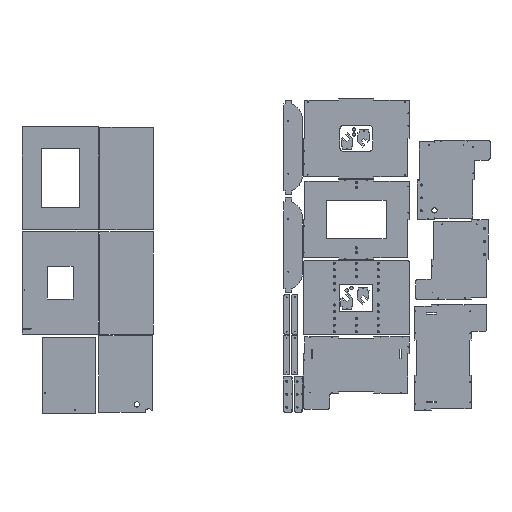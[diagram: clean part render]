
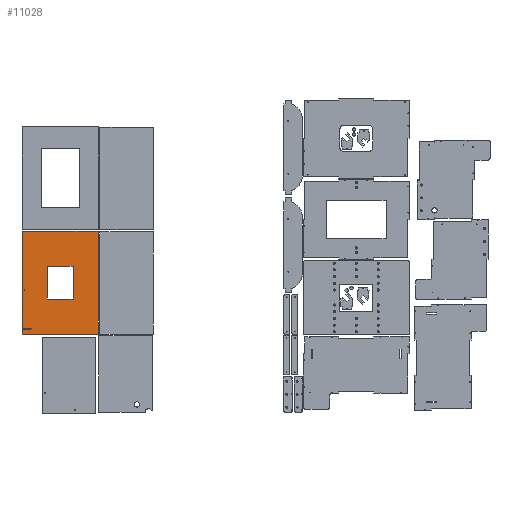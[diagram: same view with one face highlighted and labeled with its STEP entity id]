
A CAD part, top view. The second image highlights one B-rep face of the part: STEP entity #11028.
In plain terms, the highlighted planar face has unit normal (0, 0, 1) as drawn and (0, 1, 0) by its records, which use the part's own axes.
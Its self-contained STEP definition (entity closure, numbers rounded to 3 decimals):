
#127=(
BOUNDED_CURVE()
B_SPLINE_CURVE(2,(#17519,#17520,#17521),.UNSPECIFIED.,.F.,.F.)
B_SPLINE_CURVE_WITH_KNOTS((3,3),(0.,0.208),.UNSPECIFIED.)
CURVE()
GEOMETRIC_REPRESENTATION_ITEM()
RATIONAL_B_SPLINE_CURVE((1.,1.356,1.))
REPRESENTATION_ITEM('')
);
#437=FACE_BOUND('',#1948,.T.);
#438=FACE_BOUND('',#1949,.T.);
#700=PLANE('',#12229);
#1204=FACE_OUTER_BOUND('',#1947,.T.);
#1947=EDGE_LOOP('',(#8985,#8986,#8987,#8988,#8989,#8990,#8991,#8992,#8993,
#8994));
#1948=EDGE_LOOP('',(#8995,#8996,#8997,#8998));
#1949=EDGE_LOOP('',(#8999));
#2832=LINE('',#17525,#3929);
#2833=LINE('',#17528,#3930);
#2834=LINE('',#17531,#3931);
#2835=LINE('',#17533,#3932);
#2836=LINE('',#17535,#3933);
#2837=LINE('',#17537,#3934);
#2838=LINE('',#17541,#3935);
#2839=LINE('',#17542,#3936);
#2840=LINE('',#17545,#3937);
#2841=LINE('',#17547,#3938);
#2842=LINE('',#17549,#3939);
#2843=LINE('',#17550,#3940);
#3929=VECTOR('',#14365,10.);
#3930=VECTOR('',#14368,10.);
#3931=VECTOR('',#14371,10.);
#3932=VECTOR('',#14372,10.);
#3933=VECTOR('',#14373,10.);
#3934=VECTOR('',#14374,10.);
#3935=VECTOR('',#14377,10.);
#3936=VECTOR('',#14378,10.);
#3937=VECTOR('',#14379,10.);
#3938=VECTOR('',#14380,10.);
#3939=VECTOR('',#14381,10.);
#3940=VECTOR('',#14382,10.);
#4795=CIRCLE('',#12230,1.5);
#4796=CIRCLE('',#12231,1.5);
#5450=VERTEX_POINT('',#17517);
#5451=VERTEX_POINT('',#17518);
#5452=VERTEX_POINT('',#17524);
#5453=VERTEX_POINT('',#17526);
#5454=VERTEX_POINT('',#17530);
#5455=VERTEX_POINT('',#17532);
#5456=VERTEX_POINT('',#17534);
#5457=VERTEX_POINT('',#17536);
#5458=VERTEX_POINT('',#17538);
#5459=VERTEX_POINT('',#17540);
#5460=VERTEX_POINT('',#17543);
#5461=VERTEX_POINT('',#17544);
#5462=VERTEX_POINT('',#17546);
#5463=VERTEX_POINT('',#17548);
#5464=VERTEX_POINT('',#17551);
#6712=EDGE_CURVE('',#5450,#5451,#127,.T.);
#6714=EDGE_CURVE('',#5452,#5450,#2832,.T.);
#6716=EDGE_CURVE('',#5451,#5453,#2833,.T.);
#6717=EDGE_CURVE('',#5453,#5454,#2834,.T.);
#6718=EDGE_CURVE('',#5454,#5455,#2835,.T.);
#6719=EDGE_CURVE('',#5455,#5456,#2836,.T.);
#6720=EDGE_CURVE('',#5456,#5457,#2837,.T.);
#6721=EDGE_CURVE('',#5457,#5458,#4795,.T.);
#6722=EDGE_CURVE('',#5458,#5459,#2838,.T.);
#6723=EDGE_CURVE('',#5459,#5452,#2839,.T.);
#6724=EDGE_CURVE('',#5460,#5461,#2840,.T.);
#6725=EDGE_CURVE('',#5461,#5462,#2841,.T.);
#6726=EDGE_CURVE('',#5462,#5463,#2842,.T.);
#6727=EDGE_CURVE('',#5463,#5460,#2843,.T.);
#6728=EDGE_CURVE('',#5464,#5464,#4796,.T.);
#8985=ORIENTED_EDGE('',*,*,#6714,.T.);
#8986=ORIENTED_EDGE('',*,*,#6712,.T.);
#8987=ORIENTED_EDGE('',*,*,#6716,.T.);
#8988=ORIENTED_EDGE('',*,*,#6717,.T.);
#8989=ORIENTED_EDGE('',*,*,#6718,.T.);
#8990=ORIENTED_EDGE('',*,*,#6719,.T.);
#8991=ORIENTED_EDGE('',*,*,#6720,.T.);
#8992=ORIENTED_EDGE('',*,*,#6721,.T.);
#8993=ORIENTED_EDGE('',*,*,#6722,.T.);
#8994=ORIENTED_EDGE('',*,*,#6723,.T.);
#8995=ORIENTED_EDGE('',*,*,#6724,.T.);
#8996=ORIENTED_EDGE('',*,*,#6725,.T.);
#8997=ORIENTED_EDGE('',*,*,#6726,.T.);
#8998=ORIENTED_EDGE('',*,*,#6727,.T.);
#8999=ORIENTED_EDGE('',*,*,#6728,.T.);
#11028=ADVANCED_FACE('',(#1204,#437,#438),#700,.F.);
#12229=AXIS2_PLACEMENT_3D('',#17529,#14369,#14370);
#12230=AXIS2_PLACEMENT_3D('',#17539,#14375,#14376);
#12231=AXIS2_PLACEMENT_3D('',#17552,#14383,#14384);
#14365=DIRECTION('',(0.,0.,-1.));
#14368=DIRECTION('',(0.,0.,1.));
#14369=DIRECTION('center_axis',(0.,-1.,0.));
#14370=DIRECTION('ref_axis',(1.,0.,0.));
#14371=DIRECTION('',(1.,0.,0.));
#14372=DIRECTION('',(0.,0.,-1.));
#14373=DIRECTION('',(-1.,0.,0.));
#14374=DIRECTION('',(0.,0.,1.));
#14375=DIRECTION('center_axis',(0.,-1.,0.));
#14376=DIRECTION('ref_axis',(0.,0.,1.));
#14377=DIRECTION('',(0.,0.,1.));
#14378=DIRECTION('',(1.,0.,0.));
#14379=DIRECTION('',(1.,0.,0.));
#14380=DIRECTION('',(0.,0.,1.));
#14381=DIRECTION('',(-1.,0.,0.));
#14382=DIRECTION('',(0.,0.,-1.));
#14383=DIRECTION('center_axis',(0.,-1.,0.));
#14384=DIRECTION('ref_axis',(0.,0.,1.));
#17517=CARTESIAN_POINT('',(173.177,144.,110.));
#17518=CARTESIAN_POINT('',(175.203,144.,110.));
#17519=CARTESIAN_POINT('Ctrl Pts',(173.177,144.,110.));
#17520=CARTESIAN_POINT('Ctrl Pts',(174.19,144.,109.589));
#17521=CARTESIAN_POINT('Ctrl Pts',(175.203,144.,110.));
#17524=CARTESIAN_POINT('',(173.177,144.,144.));
#17525=CARTESIAN_POINT('',(173.177,144.,130.));
#17526=CARTESIAN_POINT('',(175.203,144.,144.));
#17528=CARTESIAN_POINT('',(175.203,144.,130.));
#17529=CARTESIAN_POINT('Origin',(0.,144.,0.));
#17530=CARTESIAN_POINT('',(194.,144.,144.));
#17531=CARTESIAN_POINT('',(-194.,144.,144.));
#17532=CARTESIAN_POINT('',(194.,144.,-144.));
#17533=CARTESIAN_POINT('',(194.,144.,144.));
#17534=CARTESIAN_POINT('',(-194.,144.,-144.));
#17535=CARTESIAN_POINT('',(194.,144.,-144.));
#17536=CARTESIAN_POINT('',(-194.,144.,104.145));
#17537=CARTESIAN_POINT('',(-194.,144.,-144.));
#17538=CARTESIAN_POINT('',(-194.,144.,107.124));
#17539=CARTESIAN_POINT('Origin',(-194.176,144.,105.634));
#17540=CARTESIAN_POINT('',(-194.,144.,144.));
#17541=CARTESIAN_POINT('',(-194.,144.,-144.));
#17542=CARTESIAN_POINT('',(-194.,144.,144.));
#17543=CARTESIAN_POINT('',(-61.5,144.,-49.));
#17544=CARTESIAN_POINT('',(61.5,144.,-49.));
#17545=CARTESIAN_POINT('',(-23.,144.,-49.));
#17546=CARTESIAN_POINT('',(61.5,144.,49.));
#17547=CARTESIAN_POINT('',(61.5,144.,-23.));
#17548=CARTESIAN_POINT('',(-61.5,144.,49.));
#17549=CARTESIAN_POINT('',(23.,144.,49.));
#17550=CARTESIAN_POINT('',(-61.5,144.,23.));
#17551=CARTESIAN_POINT('',(26.874,144.,132.812));
#17552=CARTESIAN_POINT('Origin',(26.874,144.,134.312));
